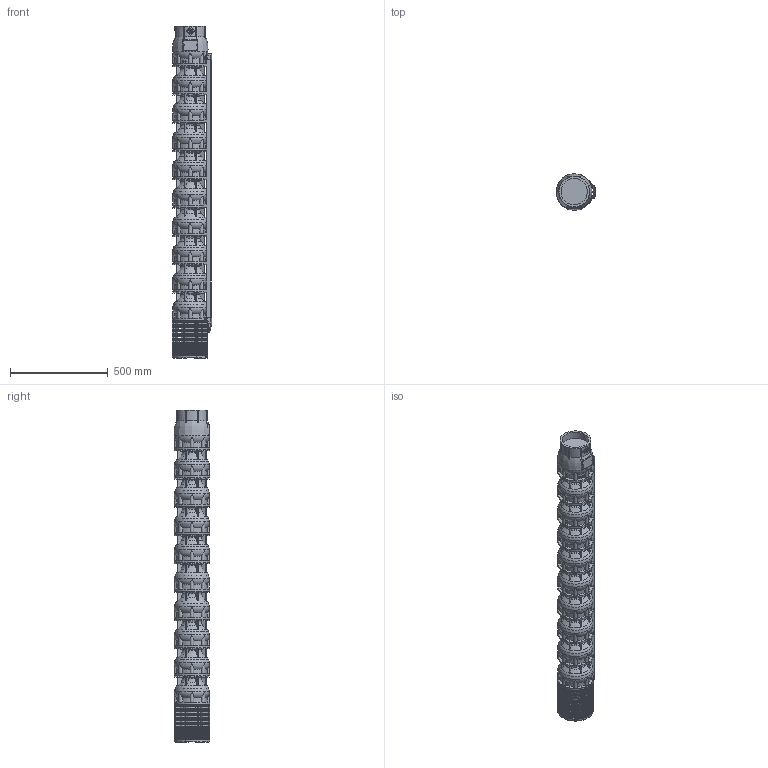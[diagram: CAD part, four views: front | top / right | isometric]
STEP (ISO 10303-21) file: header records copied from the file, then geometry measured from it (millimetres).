
FILE_DESCRIPTION(/* description */ ('Unknown'),/* implementation_level */ '2;1');
FILE_NAME(/* name */ 'VSI134-9_WR_M8-50_DLE',/* time_stamp */ '2023-09-14T13:14:05+02:00',/* author */ ('Unknown'),/* organization */ ('Unknown'),/* preprocessor_version */ 'ST-DEVELOPER v18.102',/* originating_system */ 'Solid Edge',/* authorisation */ 'Unknown');
FILE_SCHEMA (('AUTOMOTIVE_DESIGN {1 0 10303 214 3 1 1}'));
Products named in the file (11): VSI134-9_WR_M8-50_DLE; VSI134_testata; VSI134_diffusore; VSI134_supporto_8×8; VSI134_filtro_A; VSI134_filtro_B; VSI134_terminale_top_copricavo_basso; VSI134_terminale_bottom_copricavo_basso; LOW 134-9; M5X8_UNI7687; VSI134_giunto_8×8
Assembly tree (27 placements, depth 2):
  VSI134-9_WR_M8-50_DLE
    VSI134_testata
    VSI134_diffusore  x9
    VSI134_supporto_8×8
    VSI134_filtro_A
    VSI134_filtro_B
    VSI134_terminale_top_copricavo_basso
    VSI134_terminale_bottom_copricavo_basso
    LOW 134-9
    M5X8_UNI7687  x10
    VSI134_giunto_8×8
Bounding box: 201.57 x 183.52 x 1702 mm (x, y, z)
Volume: 30424265.8 mm3; surface area: 2311205.6 mm2
Topology: 66 solids, 68 shells, 4005 faces, 11317 edges, 7551 vertices
Faces by surface type: plane 2931, cylinder 530, torus 441, cone 60, bspline 31, sphere 12
Full cylindrical faces by diameter (mm): 2.4 x2, 3 x2, 4.2 x16, 5 x10, 5.5 x8, 26 x1, 44 x1, 69 x1, 74 x1, 98 x1, 135.472 x1, 157 x1, 182 x10
Entity records: 85529 total; most frequent: CARTESIAN_POINT 18360, ORIENTED_EDGE 14056, DIRECTION 13484, EDGE_CURVE 7028, VERTEX_POINT 4730, AXIS2_PLACEMENT_3D 4593, LINE 4298, VECTOR 4298
